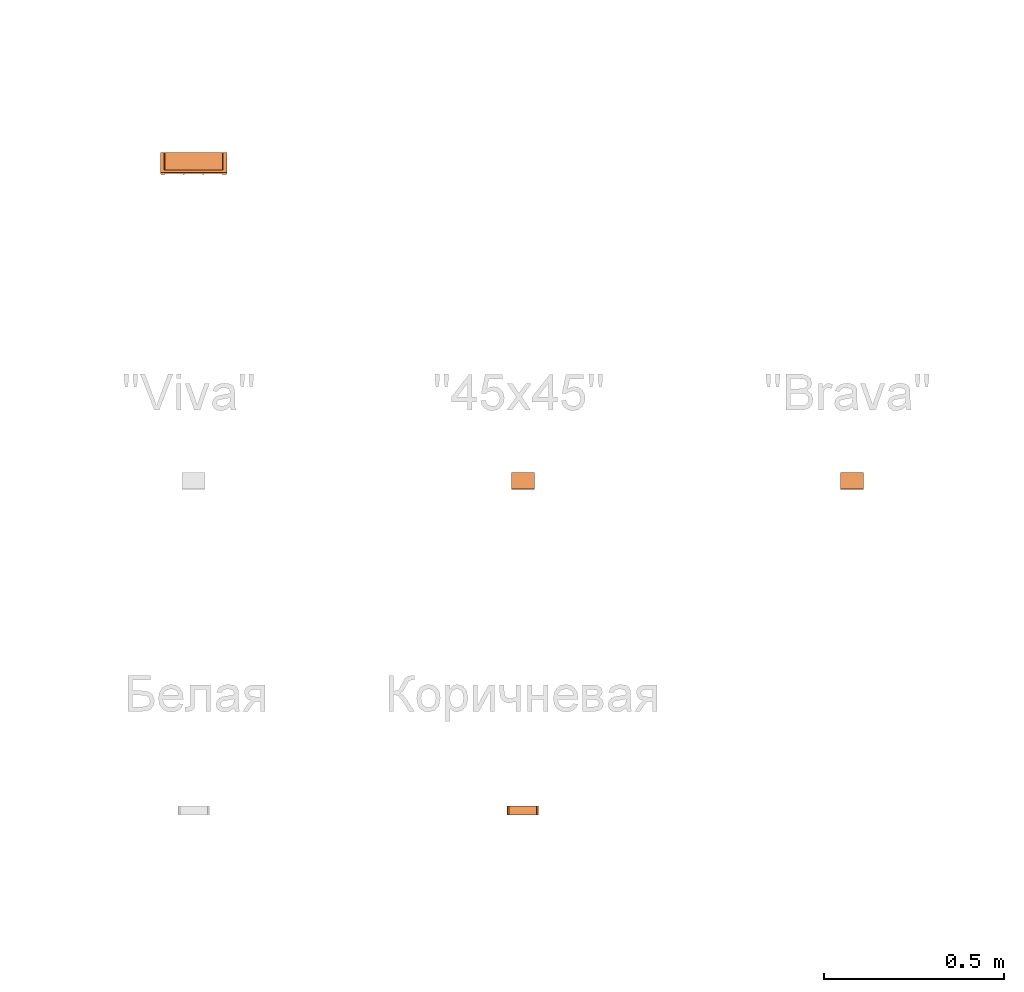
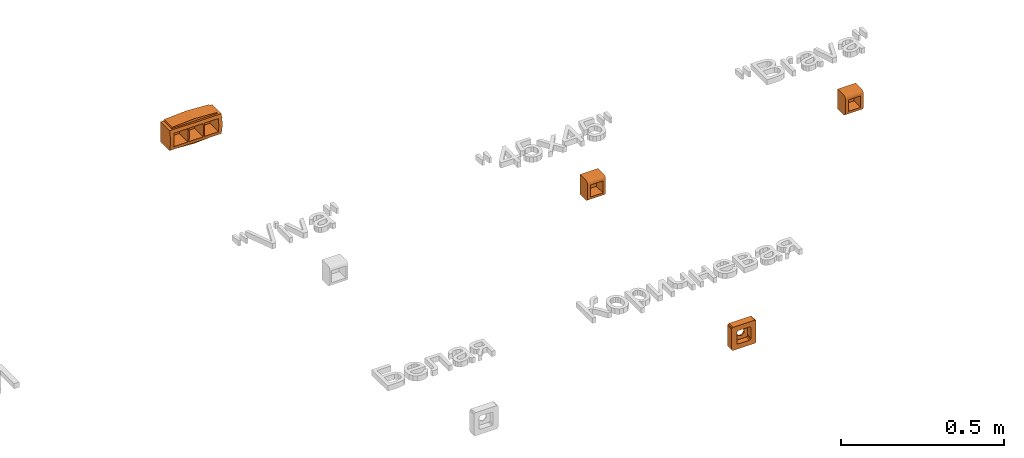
# One storey, part 80 of 87: 4 proxies.
"""IFC2X3 building model written with IfcOpenShell, lengths in millimetres."""

from ifc_helpers import new_model, entity, si_unit, converted_unit, derived_unit, direction, frame, origin, place, context, subcontext, project, spatial, faceted_brep, source, transform, mapped, material, type_object, type_shapes, element, save


model = new_model("IFC2X3")

# Units and contexts
model_context = context("Model", 3, precision=0.01, world=origin(), true_north=direction((6.12303176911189e-17, 1.0)))
body_context = subcontext(model_context, "Body", "Model", "MODEL_VIEW")
ifc_project = project(units=[si_unit("LENGTHUNIT", "METRE", prefix="MILLI"), si_unit("AREAUNIT", "SQUARE_METRE"), si_unit("VOLUMEUNIT", "CUBIC_METRE"), converted_unit("PLANEANGLEUNIT", "DEGREE", entity("IfcRatioMeasure", 0.0174532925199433), si_unit("PLANEANGLEUNIT", "RADIAN"), dimensions=[0, 0, 0, 0, 0, 0, 0]), si_unit("MASSUNIT", "GRAM", prefix="KILO"), derived_unit("MASSDENSITYUNIT", [(si_unit("MASSUNIT", "GRAM", prefix="KILO"), 1), (si_unit("LENGTHUNIT", "METRE"), -3)]), si_unit("TIMEUNIT", "SECOND"), si_unit("FREQUENCYUNIT", "HERTZ"), si_unit("THERMODYNAMICTEMPERATUREUNIT", "DEGREE_CELSIUS"), derived_unit("THERMALTRANSMITTANCEUNIT", [(si_unit("MASSUNIT", "GRAM", prefix="KILO"), 1), (si_unit("THERMODYNAMICTEMPERATUREUNIT", "KELVIN"), -1), (si_unit("TIMEUNIT", "SECOND"), -3)]), derived_unit("VOLUMETRICFLOWRATEUNIT", [(si_unit("LENGTHUNIT", "METRE"), 3), (si_unit("TIMEUNIT", "SECOND"), -1)]), si_unit("ELECTRICCURRENTUNIT", "AMPERE"), si_unit("ELECTRICVOLTAGEUNIT", "VOLT"), si_unit("POWERUNIT", "WATT"), si_unit("FORCEUNIT", "NEWTON", prefix="KILO"), si_unit("ILLUMINANCEUNIT", "LUX"), si_unit("LUMINOUSFLUXUNIT", "LUMEN"), si_unit("LUMINOUSINTENSITYUNIT", "CANDELA"), derived_unit("USERDEFINED", [(si_unit("MASSUNIT", "GRAM", prefix="KILO"), -1), (si_unit("LENGTHUNIT", "METRE"), -2), (si_unit("TIMEUNIT", "SECOND"), 3), (si_unit("LUMINOUSFLUXUNIT", "LUMEN"), 1)]), derived_unit("LINEARVELOCITYUNIT", [(si_unit("LENGTHUNIT", "METRE"), 1), (si_unit("TIMEUNIT", "SECOND"), -1)]), si_unit("PRESSUREUNIT", "PASCAL"), derived_unit("USERDEFINED", [(si_unit("LENGTHUNIT", "METRE"), -2), (si_unit("MASSUNIT", "GRAM", prefix="KILO"), 1), (si_unit("TIMEUNIT", "SECOND"), -2)])], contexts=[model_context])

# Site, building, storey
site_placement = place(None, origin())
site = spatial("IfcSite", under=ifc_project, at=site_placement, Name="Default", CompositionType="ELEMENT")
building_placement = place(site_placement, origin())
building = spatial("IfcBuilding", under=site, at=building_placement, Name="Наименование здания", CompositionType="ELEMENT")
storey_placement = place(building_placement, origin())
storey = spatial("IfcBuildingStorey", under=building, at=storey_placement, Name="Этаж 01", CompositionType="ELEMENT", Elevation=0.0)

# Proxies
building_element_proxy_type_1 = type_object("IfcBuildingElementProxyType", Name="Модульная коробка для электроустановочных изделий Brava_ILF_DKC", PredefinedType="NOTDEFINED")
shared_shape_1 = source(origin(), body_context, "Body", "Brep", [
    faceted_brep([(79.4099187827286, -6.30848607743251, 25.0), (29.4099187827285, -6.30848607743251, 25.0), (29.4099187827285, -6.30848607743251, -25.0), (79.4099187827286, -6.30848607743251, -25.0), (-24.9650812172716, -6.30848607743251, 25.0), (-24.9650812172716, -6.30848607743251, -25.0), (25.0349187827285, -6.30848607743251, -25.0), (25.0349187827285, -6.30848607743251, 25.0), (-79.3400812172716, -6.30848607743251, 25.0), (-79.3400812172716, -6.30848607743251, -25.0), (-29.3400812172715, -6.30848607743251, -25.0), (-29.3400812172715, -6.30848607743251, 25.0), (92.0, 0.0, -37.5000000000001), (92.0, 0.0, 37.5000000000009), (92.0, -56.0, 37.5000000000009), (92.0, -58.2207714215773, 25.0655856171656), (92.0, -60.441542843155, 12.6311712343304), (92.0, -60.4415428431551, 0.0), (92.0, -60.4415428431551, -12.6311712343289), (92.0, -58.2207714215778, -25.0655856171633), (92.0, -56.0, -37.5000000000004), (-92.0, 0.0, 37.5000000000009), (-92.0, 0.0, -37.5000000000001), (-92.0, -56.0, -37.4999999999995), (-92.0, -58.2207714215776, -25.0655856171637), (-92.0, -60.4415428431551, -12.6311712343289), (-92.0, -60.4415428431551, 0.0), (-92.0, -60.441542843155, 12.6311712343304), (-92.0, -58.2207714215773, 25.0655856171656), (-92.0, -56.0, 37.5), (0.0, -56.0, 37.5000000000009), (-79.3400812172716, -58.7996806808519, 25.0), (-29.3400812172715, -58.7996806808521, 25.0), (-24.9650812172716, -58.799680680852, 25.0), (25.0349187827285, -58.7996806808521, 25.0), (29.4099187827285, -58.799680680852, 25.0), (79.4099187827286, -58.7996806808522, 25.0), (-29.3400812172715, -60.4488590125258, 12.5483206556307), (-24.9650812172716, -60.4488590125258, 12.5483206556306), (25.0349187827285, -60.4488590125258, 12.5483206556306), (29.4099187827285, -60.4488590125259, 12.5483206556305), (-79.3400812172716, -60.4488590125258, 12.5483206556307), (-79.3400812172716, -60.4488590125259, -12.5483206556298), (-79.3400812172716, -61.0, 0.0), (-29.3400812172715, -61.0, 0.0), (-29.3400812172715, -60.4488590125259, -12.5483206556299), (-24.9650812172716, -60.4488590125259, -12.5483206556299), (-24.9650812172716, -61.0, 0.0), (29.4099187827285, -61.0, 0.0), (25.0349187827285, -61.0, 0.0), (25.0349187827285, -60.4488590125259, -12.5483206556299), (29.4099187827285, -60.4488590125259, -12.5483206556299), (79.4099187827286, -58.799680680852, -25.0), (79.4099187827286, -60.4488590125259, 12.5483206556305), (-29.3400812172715, -58.7996806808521, -25.0), (-79.3400812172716, -58.7996806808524, -25.0), (0.0, -56.0, -37.499999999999), (29.4099187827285, -58.7996806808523, -25.0), (25.0349187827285, -58.7996806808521, -25.0), (-24.9650812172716, -58.7996806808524, -25.0), (79.4099187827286, -61.0, 0.0), (79.4099187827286, -60.4488590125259, -12.5483206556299)], [[[0, 1, 2, 3]], [[4, 5, 6, 7]], [[8, 9, 10, 11]], [[12, 13, 14, 15, 16, 17, 18, 19, 20]], [[21, 22, 23, 24, 25, 26, 27, 28, 29]], [[13, 12, 22, 21]], [[13, 21, 29, 30, 14]], [[29, 31, 32, 33, 34, 35, 36, 14, 30]], [[31, 29, 28, 27]], [[37, 38, 33, 32]], [[35, 34, 39, 40]], [[36, 16, 15, 14]], [[26, 41, 27]], [[26, 25, 42]], [[41, 26, 43]], [[44, 45, 46, 47]], [[48, 49, 50, 51]], [[41, 31, 27]], [[38, 37, 44, 47]], [[39, 49, 48, 40]], [[52, 20, 19, 18]], [[53, 16, 36]], [[54, 55, 23, 56, 20, 52, 57, 58, 59]], [[55, 25, 24, 23]], [[60, 17, 53]], [[61, 17, 60]], [[46, 45, 54, 59]], [[51, 50, 58, 57]], [[42, 25, 55]], [[26, 42, 43]], [[61, 18, 17]], [[17, 16, 53]], [[18, 61, 52]], [[12, 20, 56, 23, 22]], [[9, 8, 31, 41, 43, 42, 55]], [[9, 55, 54, 10]], [[6, 5, 59, 58]], [[3, 2, 57, 52]], [[11, 10, 54, 45, 44, 37, 32]], [[11, 32, 31, 8]], [[7, 34, 33, 4]], [[1, 0, 36, 35]], [[5, 4, 33, 38, 47, 46, 59]], [[7, 6, 58, 50, 49, 39, 34]], [[2, 1, 35, 40, 48, 51, 57]], [[0, 3, 52, 61, 60, 53, 36]]]),
    faceted_brep([(-79.4999999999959, 0.0, -41.8301270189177), (-82.0, 0.0, -37.499999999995), (82.0, 0.0, -37.4999999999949), (79.5000000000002, 0.0, -41.8301270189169), (0.0, 0.0, -46.4999999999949), (79.5000000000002, -49.1824939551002, -41.8301270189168), (82.0, -49.1824939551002, -37.4999999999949), (-82.0, -49.1824939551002, -37.499999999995), (-79.5000000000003, -49.1824939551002, -41.8301270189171), (0.0, -49.1824939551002, -46.4999999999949)], [[[0, 1, 2, 3, 4]], [[5, 6, 7, 8, 9]], [[7, 6, 2, 1]], [[8, 7, 1, 0]], [[0, 4, 9, 8]], [[9, 4, 3, 5]], [[6, 5, 3, 2]]]),
    faceted_brep([(82.0, -49.1824939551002, 37.4999999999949), (79.5000000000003, -49.1824939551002, 41.8301270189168), (0.0, -49.1824939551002, 46.4999999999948), (-79.5000000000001, -49.1824939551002, 41.8301270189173), (-82.0, -49.1824939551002, 37.4999999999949), (-82.0, 0.0, 37.4999999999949), (-79.5000000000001, 0.0, 41.8301270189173), (0.0, 0.0, 46.4999999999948), (79.5000000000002, 0.0, 41.8301270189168), (82.0, 0.0, 37.4999999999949)], [[[0, 1, 2, 3, 4]], [[5, 6, 7, 8, 9]], [[1, 0, 9, 8]], [[8, 7, 2, 1]], [[2, 7, 6, 3]], [[4, 3, 6, 5]], [[0, 4, 5, 9]]]),
])
type_shapes(building_element_proxy_type_1, [shared_shape_1])
proxy_1_placement = place(storey_placement, frame((44616.893252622, 4063.03987088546, 0.0)))
element("IfcBuildingElementProxy", 1, at=proxy_1_placement, inside=storey, type_object=building_element_proxy_type_1, Name="КНС_МодульнаяКоробкаДляЭлектроустановочныхИзделийBrava_ILF_DKC:Модульная коробка для электроустановочных изделий Brava_ILF_DKC", ObjectType="Модульная коробка для электроустановочных изделий Brava_ILF_DKC", context=body_context, shape_type="MappedRepresentation", body=[
    mapped(shared_shape_1, transform((0.0, 0.0, 0.0), scale=1.0)),
])
ifc_material_1 = material(Name="DKC_Пластик_Белый")
building_element_proxy_type_2 = type_object("IfcBuildingElementProxyType", Name="45x45", PredefinedType="NOTDEFINED", material=ifc_material_1)
shared_shape_2 = source(origin(), body_context, "Body", "Brep", [
    faceted_brep([(32.0, -46.7740728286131, -28.2352380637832), (32.0, -45.5253175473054, -31.2500000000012), (32.0, -43.5388347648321, -33.8388347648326), (32.0, -40.9500000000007, -35.8253175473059), (32.0, -37.9352380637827, -37.0740728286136), (32.0, -34.7000000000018, -37.5000000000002), (32.0, 0.0, -37.5000000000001), (32.0, 0.0, 37.5000000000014), (32.0, -37.2000000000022, 37.4999999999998), (32.0, -39.788190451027, 37.1592582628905), (32.0, -42.2000000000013, 36.1602540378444), (32.0, -44.2710678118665, 34.5710678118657), (32.0, -45.8602540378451, 32.5000000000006), (32.0, -46.8592582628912, 30.0881904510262), (32.0, -47.1999999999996, 27.4999999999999), (32.0, -47.1999999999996, -25.0), (-32.0, -47.2000000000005, 27.5000000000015), (-32.0, -46.8592582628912, 30.0881904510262), (-32.0, -45.8602540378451, 32.5000000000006), (-32.0, -44.2710678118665, 34.5710678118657), (-32.0, -42.2000000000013, 36.1602540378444), (-32.0, -39.788190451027, 37.1592582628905), (-32.0, -37.2000000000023, 37.4999999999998), (-32.0, 0.0, 37.5000000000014), (-32.0, 0.0, -37.5000000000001), (-32.0, -34.7000000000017, -37.5000000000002), (-32.0, -37.9352380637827, -37.0740728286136), (-32.0, -40.9500000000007, -35.8253175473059), (-32.0, -43.5388347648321, -33.8388347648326), (-32.0, -45.5253175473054, -31.2500000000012), (-32.0, -46.7740728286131, -28.2352380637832), (-32.0, -47.1999999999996, -25.0), (-22.4999999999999, -6.30848607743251, 22.5000000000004), (-22.4999999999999, -6.30848607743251, -22.5000000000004), (22.5000000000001, -6.30848607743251, -22.5000000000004), (22.5000000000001, -6.30848607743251, 22.5000000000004), (-22.4999999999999, -47.1999999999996, 22.5000000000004), (-22.4999999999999, -47.1999999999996, -22.5000000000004), (22.5000000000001, -47.1999999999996, -22.5000000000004), (22.5000000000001, -47.1999999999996, 22.5000000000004)], [[[0, 1, 2, 3, 4, 5, 6, 7, 8, 9, 10, 11, 12, 13, 14, 15]], [[16, 17, 18, 19, 20, 21, 22, 23, 24, 25, 26, 27, 28, 29, 30, 31]], [[7, 6, 24, 23]], [[8, 7, 23, 22]], [[6, 5, 25, 24]], [[32, 33, 34, 35]], [[32, 36, 37, 33]], [[33, 37, 38, 34]], [[34, 38, 39, 35]], [[32, 35, 39, 36]], [[9, 8, 22, 21]], [[10, 9, 21, 20]], [[11, 10, 20, 19]], [[19, 18, 12, 11]], [[12, 18, 17, 13]], [[14, 13, 17, 16]], [[14, 39, 15]], [[39, 14, 36]], [[16, 36, 14]], [[36, 16, 31]], [[37, 31, 15]], [[31, 37, 36]], [[38, 15, 39]], [[15, 38, 37]], [[0, 15, 31, 30]], [[1, 0, 30, 29]], [[2, 1, 29, 28]], [[3, 2, 28, 27]], [[4, 3, 27, 26]], [[5, 4, 26, 25]]]),
])
type_shapes(building_element_proxy_type_2, [shared_shape_2])
proxy_2_placement = place(storey_placement, frame((45531.8513453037, 3174.06426232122, 0.0)))
element("IfcBuildingElementProxy", 2, at=proxy_2_placement, inside=storey, type_object=building_element_proxy_type_2, material=ifc_material_1, Name="КНС_КоробкаМонтажнаяПод2модуляЭлектроустановочныхИзделий_ILF_DKC:45x45", ObjectType="45x45", context=body_context, shape_type="MappedRepresentation", body=[
    mapped(shared_shape_2, transform((0.0, 0.0, 0.0), scale=1.0)),
])
building_element_proxy_type_3 = type_object("IfcBuildingElementProxyType", Name="Brava", PredefinedType="NOTDEFINED", material=ifc_material_1)
shared_shape_3 = source(origin(), body_context, "Body", "Brep", [
    faceted_brep([(32.0, -43.2459415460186, -33.5459415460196), (32.0, -40.4500000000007, -35.6913429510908), (32.0, -37.1940571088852, -37.039998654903), (32.0, -33.7000000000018, -37.5000000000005), (32.0, 0.0, -37.5000000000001), (32.0, 0.0, 37.5000000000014), (32.0, -37.2000000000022, 37.4999999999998), (32.0, -39.788190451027, 37.1592582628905), (32.0, -42.2000000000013, 36.1602540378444), (32.0, -44.2710678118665, 34.5710678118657), (32.0, -45.8602540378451, 32.5000000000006), (32.0, -46.8592582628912, 30.0881904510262), (32.0, -47.1999999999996, 27.4999999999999), (32.0, -47.1999999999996, -24.0), (32.0, -46.7399986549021, -27.4940571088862), (32.0, -45.3913429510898, -30.7500000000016), (-32.0, -47.2000000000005, 27.5000000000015), (-32.0, -46.8592582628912, 30.0881904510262), (-32.0, -45.8602540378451, 32.5000000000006), (-32.0, -44.2710678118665, 34.5710678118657), (-32.0, -42.2000000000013, 36.1602540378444), (-32.0, -39.788190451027, 37.1592582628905), (-32.0, -37.2000000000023, 37.4999999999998), (-32.0, 0.0, 37.5000000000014), (-32.0, 0.0, -37.5000000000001), (-32.0, -33.7000000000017, -37.5000000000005), (-32.0, -37.1940571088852, -37.039998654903), (-32.0, -40.4500000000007, -35.6913429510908), (-32.0, -43.2459415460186, -33.5459415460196), (-32.0, -45.3913429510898, -30.7500000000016), (-32.0, -46.7399986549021, -27.4940571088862), (-32.0, -47.1999999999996, -24.0), (-21.4999999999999, -6.30848607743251, 21.5000000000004), (-21.4999999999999, -6.30848607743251, -21.5000000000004), (21.5000000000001, -6.30848607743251, -21.5000000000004), (21.5000000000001, -6.30848607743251, 21.5000000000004), (-21.4999999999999, -47.1999999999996, 21.5000000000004), (-21.4999999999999, -47.1999999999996, -21.5000000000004), (21.5000000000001, -47.1999999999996, -21.5000000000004), (21.5000000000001, -47.1999999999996, 21.5000000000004)], [[[0, 1, 2, 3, 4, 5, 6, 7, 8, 9, 10, 11, 12, 13, 14, 15]], [[16, 17, 18, 19, 20, 21, 22, 23, 24, 25, 26, 27, 28, 29, 30, 31]], [[5, 4, 24, 23]], [[6, 5, 23, 22]], [[4, 3, 25, 24]], [[32, 33, 34, 35]], [[33, 32, 36, 37]], [[33, 37, 38, 34]], [[35, 34, 38, 39]], [[35, 39, 36, 32]], [[7, 6, 22, 21]], [[8, 7, 21, 20]], [[9, 8, 20, 19]], [[19, 18, 10, 9]], [[10, 18, 17, 11]], [[12, 11, 17, 16]], [[12, 39, 13]], [[39, 12, 36]], [[16, 36, 12]], [[36, 16, 31]], [[37, 31, 13]], [[31, 37, 36]], [[38, 13, 39]], [[13, 38, 37]], [[14, 30, 29, 15]], [[15, 29, 28, 0]], [[31, 30, 14, 13]], [[1, 27, 26, 2]], [[2, 26, 25, 3]], [[0, 28, 27, 1]]]),
])
type_shapes(building_element_proxy_type_3, [shared_shape_3])
proxy_3_placement = place(storey_placement, frame((46446.8094379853, 3174.06426232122, 0.0)))
element("IfcBuildingElementProxy", 3, at=proxy_3_placement, inside=storey, type_object=building_element_proxy_type_3, material=ifc_material_1, Name="КНС_КоробкаМонтажнаяПод2модуляЭлектроустановочныхИзделий_ILF_DKC:Brava", ObjectType="Brava", context=body_context, shape_type="MappedRepresentation", body=[
    mapped(shared_shape_3, transform((0.0, 0.0, 0.0), scale=1.0)),
])
ifc_material_2 = material(Name="DKC_Пластик_Коричневый")
building_element_proxy_type_4 = type_object("IfcBuildingElementProxyType", Name="Коричневая", PredefinedType="NOTDEFINED", material=ifc_material_2)
shared_shape_4 = source(origin(), body_context, "Body", "Brep", [
    faceted_brep([(-25.0, 20.0, 20.0), (-20.0, 20.0, 25.0), (-23.5355339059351, 20.0, 23.5355339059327), (-8.98025612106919, 20.0, 8.98025612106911), (-10.9985226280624, 20.0, 6.34999999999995), (-12.2672579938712, 20.0, 3.28700187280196), (-12.7, 20.0, 0.0), (-25.0, 20.0, -20.0), (-12.2672579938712, 20.0, -3.28700187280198), (-10.9985226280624, 20.0, -6.34999999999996), (-8.98025612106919, 20.0, -8.98025612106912), (-20.0, 20.0, -25.0), (-23.5355339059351, 20.0, -23.5355339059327), (-6.35000000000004, 20.0, -10.9985226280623), (-3.28700187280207, 20.0, -12.2672579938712), (0.0, 20.0, -12.7), (20.0, 20.0, -25.0), (3.28700187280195, 20.0, -12.2672579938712), (6.34999999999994, 20.0, -10.9985226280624), (8.98025612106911, 20.0, -8.9802561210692), (25.0, 20.0, -20.0), (23.5355339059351, 20.0, -23.5355339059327), (10.9985226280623, 20.0, -6.35000000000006), (12.2672579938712, 20.0, -3.28700187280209), (12.7, 20.0, 0.0), (25.0, 20.0, 20.0), (12.2672579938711, 20.0, 3.2870018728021), (10.9985226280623, 20.0, 6.35000000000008), (8.9802561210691, 20.0, 8.98025612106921), (20.0, 20.0, 25.0), (23.5355339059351, 20.0, 23.5355339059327), (0.0, 20.0, 12.7), (6.34999999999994, 20.0, 10.9985226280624), (3.28700187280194, 20.0, 12.2672579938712), (-6.35000000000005, 20.0, 10.9985226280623), (-3.28700187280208, 20.0, 12.2672579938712), (20.0, 0.0, 25.0), (-20.0, 0.0, 25.0), (-23.5355339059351, 0.0, 23.5355339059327), (-25.0, 0.0, 20.0), (-25.0, 0.0, -20.0), (-23.5355339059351, 0.0, -23.5355339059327), (-20.0, 0.0, -25.0), (20.0, 0.0, -25.0), (23.5355339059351, 0.0, -23.5355339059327), (25.0, 0.0, -20.0), (25.0, 0.0, 20.0), (23.5355339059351, 0.0, 23.5355339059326), (43.5000000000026, 0.0, 38.4999999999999), (42.0355339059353, 0.0, 42.0355339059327), (38.5000000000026, 0.0, 43.4999999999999), (43.5000000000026, 0.0, -38.4999999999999), (-38.5000000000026, 0.0, 43.4999999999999), (-43.5000000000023, 0.0, 38.4999999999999), (-42.0355339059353, 0.0, 42.0355339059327), (-43.5000000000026, 0.0, -38.4999999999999), (-38.5000000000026, 0.0, -43.4999999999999), (-42.0355339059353, 0.0, -42.0355339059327), (38.5000000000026, 0.0, -43.4999999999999), (42.0355339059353, 0.0, -42.0355339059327), (-42.0355339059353, 25.3999999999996, 42.0355339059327), (-38.5000000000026, 25.3999999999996, 43.4999999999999), (-43.5000000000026, 25.3999999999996, 38.4999999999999), (-8.98025612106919, 25.3999999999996, 8.98025612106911), (-6.35000000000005, 25.3999999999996, 10.9985226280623), (-3.28700187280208, 25.3999999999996, 12.2672579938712), (0.0, 25.3999999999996, 12.7), (38.5000000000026, 25.3999999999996, 43.4999999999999), (3.28700187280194, 25.3999999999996, 12.2672579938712), (6.34999999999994, 25.3999999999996, 10.9985226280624), (8.9802561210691, 25.3999999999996, 8.98025612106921), (43.5000000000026, 25.3999999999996, 38.4999999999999), (42.0355339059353, 25.3999999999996, 42.0355339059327), (10.9985226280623, 25.3999999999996, 6.35000000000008), (12.2672579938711, 25.3999999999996, 3.2870018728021), (12.7, 25.3999999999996, 0.0), (43.5000000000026, 25.3999999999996, -38.4999999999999), (12.2672579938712, 25.3999999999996, -3.28700187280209), (10.9985226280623, 25.3999999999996, -6.35000000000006), (8.98025612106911, 25.3999999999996, -8.98025612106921), (38.5000000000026, 25.3999999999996, -43.4999999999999), (42.0355339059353, 25.3999999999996, -42.0355339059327), (6.34999999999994, 25.3999999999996, -10.9985226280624), (3.28700187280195, 25.3999999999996, -12.2672579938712), (0.0, 25.3999999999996, -12.7), (-38.5000000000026, 25.3999999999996, -43.4999999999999), (-3.28700187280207, 25.3999999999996, -12.2672579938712), (-6.35000000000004, 25.3999999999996, -10.9985226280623), (-8.98025612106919, 25.3999999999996, -8.98025612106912), (-43.5000000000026, 25.3999999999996, -38.4999999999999), (-42.0355339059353, 25.3999999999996, -42.0355339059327), (-12.7, 25.3999999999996, 0.0), (-12.2672579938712, 25.3999999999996, -3.28700187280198), (-10.9985226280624, 25.3999999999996, -6.34999999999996), (-10.9985226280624, 25.3999999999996, 6.34999999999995), (-12.2672579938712, 25.3999999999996, 3.28700187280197)], [[[0, 1, 2]], [[3, 1, 0]], [[0, 4, 3]], [[0, 5, 4]], [[6, 5, 0]], [[0, 7, 6]], [[8, 6, 7]], [[7, 9, 8]], [[7, 10, 9]], [[10, 7, 11]], [[7, 12, 11]], [[11, 13, 10]], [[11, 14, 13]], [[15, 14, 11]], [[11, 16, 15]], [[16, 17, 15]], [[17, 16, 18]], [[16, 19, 18]], [[20, 19, 16]], [[21, 20, 16]], [[22, 19, 20]], [[20, 23, 22]], [[20, 24, 23]], [[20, 25, 24]], [[24, 25, 26]], [[25, 27, 26]], [[25, 28, 27]], [[29, 28, 25]], [[25, 30, 29]], [[31, 29, 1]], [[28, 29, 32]], [[29, 33, 32]], [[29, 31, 33]], [[1, 3, 34]], [[1, 34, 35]], [[1, 35, 31]], [[29, 36, 37, 1]], [[38, 2, 1, 37]], [[39, 0, 2, 38]], [[0, 39, 40, 7]], [[41, 12, 7, 40]], [[42, 11, 12, 41]], [[11, 42, 43, 16]], [[44, 21, 16, 43]], [[45, 20, 21, 44]], [[20, 45, 46, 25]], [[47, 30, 25, 46]], [[36, 29, 30, 47]], [[48, 49, 50]], [[48, 50, 47]], [[47, 46, 48]], [[48, 46, 45]], [[51, 48, 45]], [[36, 47, 50]], [[50, 37, 36]], [[37, 50, 52]], [[38, 37, 52]], [[52, 53, 38]], [[52, 54, 53]], [[39, 38, 53]], [[39, 53, 40]], [[40, 53, 55]], [[41, 40, 55]], [[55, 56, 41]], [[56, 55, 57]], [[42, 41, 56]], [[42, 56, 58]], [[51, 58, 59]], [[58, 51, 44]], [[44, 43, 58]], [[58, 43, 42]], [[45, 44, 51]], [[60, 61, 62]], [[62, 61, 63]], [[64, 63, 61]], [[65, 64, 61]], [[66, 65, 61]], [[61, 67, 66]], [[68, 66, 67]], [[69, 68, 67]], [[69, 67, 70]], [[71, 70, 67]], [[67, 72, 71]], [[73, 70, 71]], [[74, 73, 71]], [[74, 71, 75]], [[75, 71, 76]], [[77, 75, 76]], [[78, 77, 76]], [[76, 79, 78]], [[80, 79, 76]], [[80, 76, 81]], [[82, 79, 80]], [[82, 80, 83]], [[84, 83, 80]], [[84, 80, 85]], [[85, 86, 84]], [[87, 86, 85]], [[88, 87, 85]], [[85, 89, 88]], [[85, 90, 89]], [[91, 89, 62]], [[89, 91, 92]], [[92, 93, 89]], [[93, 88, 89]], [[63, 94, 62]], [[94, 95, 62]], [[62, 95, 91]], [[52, 50, 67, 61]], [[52, 61, 60, 54]], [[60, 62, 53, 54]], [[55, 53, 62, 89]], [[55, 89, 90, 57]], [[90, 85, 56, 57]], [[58, 56, 85, 80]], [[58, 80, 81, 59]], [[81, 76, 51, 59]], [[48, 51, 76, 71]], [[48, 71, 72, 49]], [[72, 67, 50, 49]], [[91, 6, 8, 92]], [[92, 8, 9, 93]], [[87, 88, 10, 13]], [[10, 88, 93, 9]], [[86, 87, 13, 14]], [[86, 14, 15, 84]], [[84, 15, 17, 83]], [[83, 17, 18, 82]], [[78, 79, 19, 22]], [[19, 79, 82, 18]], [[77, 78, 22, 23]], [[77, 23, 24, 75]], [[75, 24, 26, 74]], [[74, 26, 27, 73]], [[69, 70, 28, 32]], [[28, 70, 73, 27]], [[68, 69, 32, 33]], [[68, 33, 31, 66]], [[66, 31, 35, 65]], [[65, 35, 34, 64]], [[94, 63, 3, 4]], [[3, 63, 64, 34]], [[95, 94, 4, 5]], [[95, 5, 6, 91]]]),
])
type_shapes(building_element_proxy_type_4, [shared_shape_4])
proxy_4_placement = place(storey_placement, frame((45531.8513453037, 2221.32487936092, 0.0)))
element("IfcBuildingElementProxy", 4, at=proxy_4_placement, inside=storey, type_object=building_element_proxy_type_4, material=ifc_material_2, Name="КНС_КоробкаМонтажнаяПод2МодуляЭлектроустановочныхИзделийPDD-N60_ILF_DKC:Коричневая", ObjectType="Коричневая", context=body_context, shape_type="MappedRepresentation", body=[
    mapped(shared_shape_4, transform((0.0, 0.0, 0.0), scale=1.0)),
])

save(model, "model.ifc")
